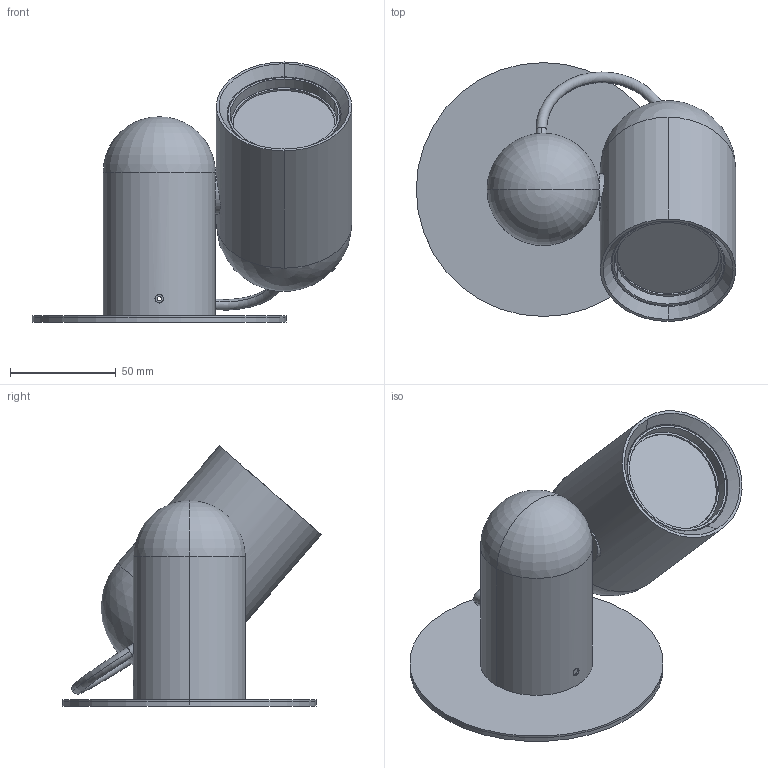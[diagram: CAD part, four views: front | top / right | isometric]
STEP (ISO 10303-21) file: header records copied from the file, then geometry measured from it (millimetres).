
FILE_DESCRIPTION (( 'STEP AP214' ), '1' );
FILE_NAME ('ONFA APLIQUE PLETINA USA.STEP', '2026-04-09T14:35:46', ( '' ), ( '' ), 'SwSTEP 2.0', 'SolidWorks 2016', '' );
FILE_SCHEMA (( 'AUTOMOTIVE_DESIGN' ));
Length unit declared in the file: millimetre
Products named in the file (28): BOMBILLA; CASQUILLO FA; SOPORTE APLIQUE CASQUILLO; PRENSACABLES_2; PRENSACABLES_1; ENSAMBLAJE BOMBILLA ONFA; CASQUILLO; ONFA APLIQUE PLETINA USA; EMBELLECEDOR PLETINA V1; FUNDA MADERA CASQUILLO FA; PLETINA V1; IMAN FA; TORNILLO_PRENSACABLES; CABLE APLIQUE PEQUEÑO ONFA; SOPORTE METALICA ONFA APLIQUE PEQUEÑO
Assembly tree (14 placements, depth 3):
  BOMBILLA
  CASQUILLO FA
  SOPORTE APLIQUE CASQUILLO
  PRENSACABLES_2
  ONFA APLIQUE PLETINA USA
    SOPORTE APLIQUE CASQUILLO
    IMAN FA
    ENSAMBLAJE BOMBILLA ONFA
      BOMBILLA
      CASQUILLO
      PRENSACABLES_1
      PRENSACABLES_2
      TORNILLO_PRENSACABLES
    CASQUILLO FA
    FUNDA MADERA CASQUILLO FA
    CABLE APLIQUE PEQUEÑO ONFA
    SOPORTE METALICA ONFA APLIQUE PEQUEÑO
    PLETINA V1
    EMBELLECEDOR PLETINA V1
Bounding box: 151 x 122.46 x 122.92 mm (x, y, z)
Volume: 215689.6 mm3; surface area: 166743.5 mm2
Topology: 13 solids, 13 shells, 249 faces, 616 edges, 389 vertices
Faces by surface type: cylinder 122, plane 76, torus 22, cone 21, sphere 8
Entity records: 8829 total; most frequent: CARTESIAN_POINT 1887, DIRECTION 1433, ORIENTED_EDGE 1200, EDGE_CURVE 600, AXIS2_PLACEMENT_3D 591, VERTEX_POINT 385, CIRCLE 323, EDGE_LOOP 313
